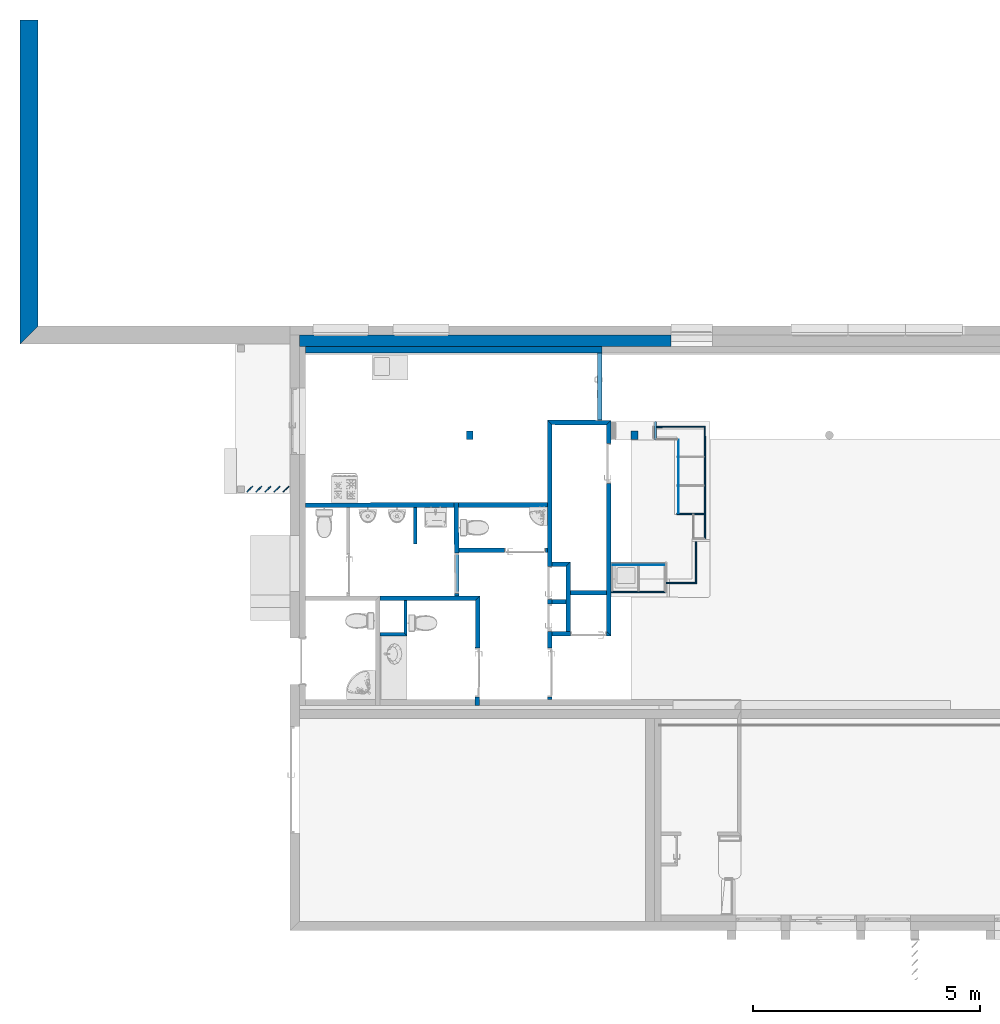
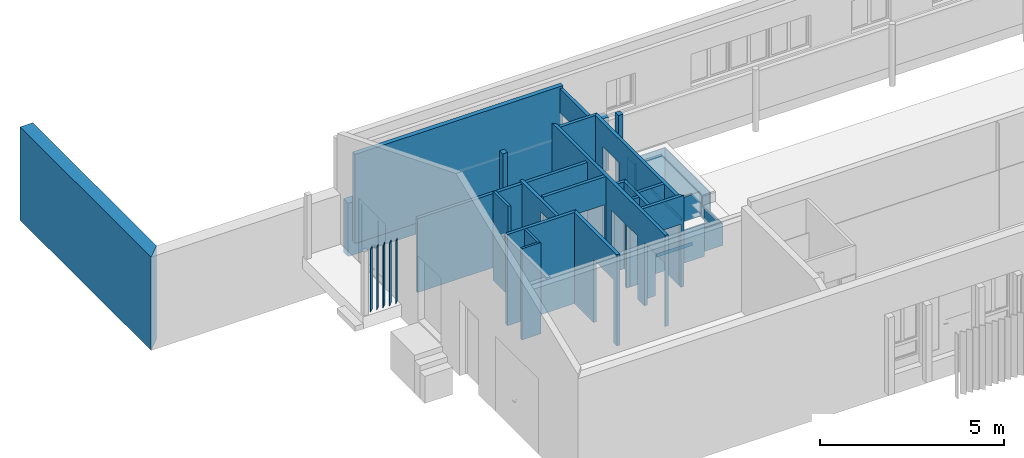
# One storey, part 6 of 34: 36 walls, 10 openings.
"""IFC2X3 building model written with IfcOpenShell, lengths in metres."""

from ifc_helpers import new_model, entity, si_unit, converted_unit, derived_unit, money_unit, direction, frame, origin_with_axes, origin_2d_with_axis, place, context, subcontext, project, spatial, polyline, rectangle, outline, extrude, material, layer, layer_set, layer_usage, type_object, element, save


model = new_model("IFC2X3")

# Units and contexts
model_context = context("Model", 3, precision=1e-05, world=origin_with_axes(), true_north=direction((0.0, 1.0)))
body_context = subcontext(model_context, "Body", "Model", "MODEL_VIEW")
ifc_project = project(units=[si_unit("LENGTHUNIT", "METRE"), si_unit("AREAUNIT", "SQUARE_METRE"), si_unit("VOLUMEUNIT", "CUBIC_METRE"), converted_unit("PLANEANGLEUNIT", "DEGREE", entity("IfcPlaneAngleMeasure", 0.0174532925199), si_unit("PLANEANGLEUNIT", "RADIAN"), dimensions=[0, 0, 0, 0, 0, 0, 0]), money_unit("CHF"), converted_unit("TIMEUNIT", "Year", entity("IfcTimeMeasure", 31556926.0), si_unit("TIMEUNIT", "SECOND"), dimensions=[0, 0, 1, 0, 0, 0, 0]), si_unit("MASSUNIT", "GRAM", prefix="KILO"), si_unit("THERMODYNAMICTEMPERATUREUNIT", "DEGREE_CELSIUS"), si_unit("LUMINOUSINTENSITYUNIT", "LUMEN"), si_unit("ENERGYUNIT", "JOULE", prefix="MEGA"), derived_unit("THERMALCONDUCTANCEUNIT", [(si_unit("POWERUNIT", "WATT"), 1), (si_unit("LENGTHUNIT", "METRE"), -1), (si_unit("THERMODYNAMICTEMPERATUREUNIT", "KELVIN"), -1)]), derived_unit("SPECIFICHEATCAPACITYUNIT", [(si_unit("ENERGYUNIT", "JOULE"), 1), (si_unit("MASSUNIT", "GRAM", prefix="KILO"), -1), (si_unit("THERMODYNAMICTEMPERATUREUNIT", "KELVIN"), -1)]), derived_unit("MASSDENSITYUNIT", [(si_unit("MASSUNIT", "GRAM", prefix="KILO"), 1), (si_unit("VOLUMEUNIT", "CUBIC_METRE"), -1)])], contexts=[model_context])

# Site, building, storey
site_placement = place(None, origin_with_axes())
site = spatial("IfcSite", under=ifc_project, at=site_placement, Name="Site", CompositionType="ELEMENT")
building_placement = place(site_placement, origin_with_axes())
building = spatial("IfcBuilding", under=site, at=building_placement, Name="Bâtiment", CompositionType="ELEMENT")
storey_placement = place(building_placement, origin_with_axes())
storey = spatial("IfcBuildingStorey", under=building, at=storey_placement, Name="RDC", CompositionType="ELEMENT", Elevation=-5.32907e-15)

# Walls
ifc_material_1 = material(Name="Diagonales 1167258944")
ifc_layer_1 = layer(ifc_material_1, 0.4, ventilated="UNKNOWN")
ifc_layer_set_1 = layer_set([ifc_layer_1], Name="Diagonales 1167258944 0.4")
ifc_layer_usage_1 = layer_usage(ifc_layer_set_1, "AXIS2", "POSITIVE", 0.0)
wall_type_1 = type_object("IfcWallType", Name="Diagonales 1167258944 400", PredefinedType="NOTDEFINED")
wall_1_placement = place(storey_placement, frame((1661.86334084, 190.70004191, -1.0), z_axis=(0.0, 0.0, 1.0), x_axis=(0.0, 1.0, 0.0)))
element("IfcWallStandardCase", 1, at=wall_1_placement, inside=storey, type_object=wall_type_1, material=ifc_layer_usage_1, Name="Mur-003", context=body_context, shape_type="SweptSolid", body=[
    extrude(outline(polyline([(0.0, 0.0), (6.74, 0.0), (6.74, 0.4), (-0.4, 0.4), (0.0, 0.0)])), origin_with_axes(), (0.0, 0.0, 1.0), 3.1),
])
ifc_material_2 = material(Name="Isolation laine de pierre 378182646")
ifc_layer_2 = layer(ifc_material_2, 0.12, ventilated="UNKNOWN")
ifc_material_3 = material(Name="Plâtre lissé 291446788")
ifc_layer_3 = layer(ifc_material_3, 0.02, ventilated="UNKNOWN")
ifc_layer_set_2 = layer_set([ifc_layer_2, ifc_layer_3], Name="DOUBLAGE ISO + BA13 14 CM")
ifc_layer_usage_2 = layer_usage(ifc_layer_set_2, "AXIS2", "NEGATIVE", 0.0)
wall_type_2 = type_object("IfcWallType", Name="DOUBLAGE ISO + BA13 14 CM 140", PredefinedType="NOTDEFINED")
wall_2_placement = place(storey_placement, frame((1667.61729001, 190.24004191, 0.47), z_axis=(0.0, 0.0, 1.0), x_axis=(1.0, 0.0, 0.0)))
element("IfcWallStandardCase", 2, at=wall_2_placement, inside=storey, type_object=wall_type_2, material=ifc_layer_usage_2, Name="Mur-002", context=body_context, shape_type="SweptSolid", body=[
    extrude(outline(polyline([(0.14, -0.14), (6.67360580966, -0.14), (6.67360580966, 0.0), (0.14, 0.0), (0.14, -0.14)])), origin_with_axes(), (0.0, 0.0, 1.0), 2.96),
])
ifc_material_4 = material(Name="Métal 368073405")
ifc_layer_4 = layer(ifc_material_4, 0.02, ventilated="UNKNOWN")
ifc_layer_set_3 = layer_set([ifc_layer_4], Name="Métal 368073405 0.02")
ifc_layer_usage_3 = layer_usage(ifc_layer_set_3, "AXIS2", "NEGATIVE", 0.0)
wall_type_3 = type_object("IfcWallType", Name="Métal 368073405 20", PredefinedType="NOTDEFINED")
wall_3_placement = place(storey_placement, frame((1667.25647656, 187.046210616, 0.500875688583), z_axis=(0.0, 0.0, 1.0), x_axis=(0.707106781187, 0.707106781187, 0.0)))
element("IfcWallStandardCase", 3, at=wall_3_placement, inside=storey, type_object=wall_type_3, material=ifc_layer_usage_3, Name="Mur-011", context=body_context, shape_type="SweptSolid", body=[
    extrude(outline(polyline([(0.0, -0.02), (0.17446052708, -0.02), (0.17446052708, 0.0), (0.0, 0.0), (0.0, -0.02)])), origin_with_axes(), (0.0, 0.0, 1.0), 2.06912431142),
])
ifc_layer_usage_4 = layer_usage(ifc_layer_set_3, "AXIS2", "NEGATIVE", 0.0)
wall_4_placement = place(storey_placement, frame((1667.05647656, 187.046210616, 0.500875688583), z_axis=(0.0, 0.0, 1.0), x_axis=(0.707106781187, 0.707106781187, 0.0)))
element("IfcWallStandardCase", 4, at=wall_4_placement, inside=storey, type_object=wall_type_3, material=ifc_layer_usage_4, Name="Mur-011", context=body_context, shape_type="SweptSolid", body=[
    extrude(outline(polyline([(0.0, -0.02), (0.17446052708, -0.02), (0.17446052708, 0.0), (0.0, 0.0), (0.0, -0.02)])), origin_with_axes(), (0.0, 0.0, 1.0), 2.06912431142),
])
ifc_layer_usage_5 = layer_usage(ifc_layer_set_3, "AXIS2", "NEGATIVE", 0.0)
wall_5_placement = place(storey_placement, frame((1666.85647656, 187.046210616, 0.500875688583), z_axis=(0.0, 0.0, 1.0), x_axis=(0.707106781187, 0.707106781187, 0.0)))
element("IfcWallStandardCase", 5, at=wall_5_placement, inside=storey, type_object=wall_type_3, material=ifc_layer_usage_5, Name="Mur-011", context=body_context, shape_type="SweptSolid", body=[
    extrude(outline(polyline([(0.0, -0.02), (0.17446052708, -0.02), (0.17446052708, 0.0), (0.0, 0.0), (0.0, -0.02)])), origin_with_axes(), (0.0, 0.0, 1.0), 2.06912431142),
])
ifc_layer_usage_6 = layer_usage(ifc_layer_set_3, "AXIS2", "NEGATIVE", 0.0)
wall_6_placement = place(storey_placement, frame((1666.65647656, 187.046210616, 0.500875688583), z_axis=(0.0, 0.0, 1.0), x_axis=(0.707106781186, 0.707106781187, 0.0)))
element("IfcWallStandardCase", 6, at=wall_6_placement, inside=storey, type_object=wall_type_3, material=ifc_layer_usage_6, Name="Mur-011", context=body_context, shape_type="SweptSolid", body=[
    extrude(outline(polyline([(0.0, -0.02), (0.17446052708, -0.02), (0.17446052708, 0.0), (0.0, 0.0), (0.0, -0.02)])), origin_with_axes(), (0.0, 0.0, 1.0), 2.06912431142),
])
ifc_layer_usage_7 = layer_usage(ifc_layer_set_3, "AXIS2", "NEGATIVE", 0.0)
wall_7_placement = place(storey_placement, frame((1666.45647656, 187.046210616, 0.500875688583), z_axis=(0.0, 0.0, 1.0), x_axis=(0.707106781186, 0.707106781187, 0.0)))
element("IfcWallStandardCase", 7, at=wall_7_placement, inside=storey, type_object=wall_type_3, material=ifc_layer_usage_7, Name="Mur-011", context=body_context, shape_type="SweptSolid", body=[
    extrude(outline(polyline([(0.0, -0.02), (0.17446052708, -0.02), (0.17446052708, 0.0), (0.0, 0.0), (0.0, -0.02)])), origin_with_axes(), (0.0, 0.0, 1.0), 2.06912431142),
])
ifc_layer_5 = layer(ifc_material_3, 0.018, ventilated="UNKNOWN")
ifc_material_5 = material(Name="Isolation laine de pierre 378641718")
ifc_layer_6 = layer(ifc_material_5, 0.045, ventilated="UNKNOWN")
ifc_layer_7 = layer(ifc_material_3, 0.018, ventilated="UNKNOWN")
ifc_layer_set_4 = layer_set([ifc_layer_5, ifc_layer_6, ifc_layer_7], Name="CLOISON 84/45 iso")
ifc_layer_usage_8 = layer_usage(ifc_layer_set_4, "AXIS2", "POSITIVE", 0.0)
wall_type_4 = type_object("IfcWallType", Name="CLOISON 84/45 iso 81", PredefinedType="NOTDEFINED")
wall_8_placement = place(storey_placement, frame((1670.12981347, 186.701898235, 0.47), z_axis=(0.0, 0.0, 1.0), x_axis=(0.00319938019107, -0.99999488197, 0.0)))
element("IfcWallStandardCase", 8, at=wall_8_placement, inside=storey, type_object=wall_type_4, material=ifc_layer_usage_8, Name="Mur-010", context=body_context, shape_type="SweptSolid", body=[
    extrude(outline(polyline([(0.0, 0.0), (0.813515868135, 0.0), (0.813515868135, 0.0810000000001), (0.0, 0.081), (0.0, 0.0)])), origin_with_axes(), (0.0, 0.0, 1.0), 2.96),
])
ifc_layer_8 = layer(ifc_material_1, 0.15, ventilated="UNKNOWN")
ifc_layer_set_5 = layer_set([ifc_layer_8], Name="Diagonales 1167258944 0.15")
ifc_layer_usage_9 = layer_usage(ifc_layer_set_5, "AXIS2", "NEGATIVE", 0.0)
wall_type_5 = type_object("IfcWallType", Name="Diagonales 1167258944 150", PredefinedType="NOTDEFINED")
wall_9_placement = place(storey_placement, frame((1671.29729001, 188.20004191, 1.09), z_axis=(0.0, 0.0, 1.0), x_axis=(0.0, 1.0, 0.0)))
element("IfcWallStandardCase", 9, at=wall_9_placement, inside=storey, type_object=wall_type_5, material=ifc_layer_usage_9, Name="Mur-005", context=body_context, shape_type="SweptSolid", body=[
    extrude(outline(polyline([(0.0, -0.15), (0.18, -0.15), (0.18, 0.0), (0.0, 0.0), (0.0, -0.15)])), origin_with_axes(), (0.0, 0.0, 1.0), 2.27),
])
ifc_layer_usage_10 = layer_usage(ifc_layer_set_5, "AXIS2", "POSITIVE", 0.0)
wall_10_placement = place(storey_placement, frame((1675.08077956, 188.20004191, 1.09), z_axis=(0.0, 0.0, 1.0), x_axis=(0.0, 1.0, 0.0)))
element("IfcWallStandardCase", 10, at=wall_10_placement, inside=storey, type_object=wall_type_5, material=ifc_layer_usage_10, Name="Mur-005", context=body_context, shape_type="SweptSolid", body=[
    extrude(outline(polyline([(0.0, 0.0), (0.18, 0.0), (0.18, 0.15), (0.0, 0.15), (0.0, 0.0)])), origin_with_axes(), (0.0, 0.0, 1.0), 2.27),
])

# Wall, opening
ifc_layer_9 = layer(ifc_material_3, 0.015, ventilated="UNKNOWN")
ifc_material_6 = material(Name="Isolation laine de pierre 307970822")
ifc_layer_10 = layer(ifc_material_6, 0.07, ventilated="UNKNOWN")
ifc_layer_11 = layer(ifc_material_3, 0.015, ventilated="UNKNOWN")
ifc_layer_set_6 = layer_set([ifc_layer_9, ifc_layer_10, ifc_layer_11], Name="CLOISON 10 ROUGE")
ifc_layer_usage_11 = layer_usage(ifc_layer_set_6, "AXIS2", "NEGATIVE", 0.0)
wall_type_6 = type_object("IfcWallType", Name="CLOISON 10 ROUGE 100", PredefinedType="NOTDEFINED")
wall_11_placement = place(storey_placement, frame((1674.4908958, 183.86604191, 0.47), z_axis=(0.0, 0.0, 1.0), x_axis=(-1.0, 0.0, 0.0)))
wall_11 = element("IfcWallStandardCase", 11, at=wall_11_placement, inside=storey, type_object=wall_type_6, material=ifc_layer_usage_11, Name="Mur-010", context=body_context, shape_type="SweptSolid", body=[
    extrude(outline(polyline([(0.1, -0.1), (1.29999997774, -0.1), (1.29999997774, 0.0), (0.0, 0.0), (0.1, -0.1)])), origin_with_axes(), (0.0, 0.0, 1.0), 3.03000008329),
])
opening_1_placement = place(wall_11_placement, frame((0.499999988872, 0.0, 0.0), z_axis=(0.0, 0.0, 1.0), x_axis=(1.0, 0.0, 0.0)))
element("IfcOpeningElement", 12, at=opening_1_placement, cuts=wall_11, Name="Por-004", context=body_context, shape_type="SweptSolid", body=[
    extrude(rectangle(XDim=0.799999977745, YDim=2.1, at=origin_2d_with_axis()), frame((0.0, 0.1, 1.05), z_axis=(0.0, -1.0, 0.0), x_axis=(1.0, 0.0, 0.0)), (0.0, 0.0, 1.0), 0.3),
])

# Wall
ifc_layer_usage_12 = layer_usage(ifc_layer_set_6, "AXIS2", "POSITIVE", 0.0)
wall_12_placement = place(storey_placement, frame((1673.19089582, 186.803090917, 0.9), z_axis=(0.0, 0.0, 1.0), x_axis=(-0.999999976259, -0.00021790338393, 0.0)))
element("IfcWallStandardCase", 13, at=wall_12_placement, inside=storey, type_object=wall_type_6, material=ifc_layer_usage_12, Name="Mur-010", context=body_context, shape_type="SweptSolid", body=[
    extrude(outline(polyline([(0.100000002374, 0.0), (5.43360593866, 0.0), (5.433627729, 0.1), (0.100021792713, 0.1), (0.100000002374, 0.0)])), origin_with_axes(), (0.0, 0.0, 1.0), 2.46),
])

# Wall, opening
ifc_layer_usage_13 = layer_usage(ifc_layer_set_6, "AXIS2", "POSITIVE", 0.0)
wall_13_placement = place(storey_placement, frame((1671.0330132, 185.701953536, 0.47), z_axis=(0.0, 0.0, 1.0), x_axis=(1.0, 0.0, 0.0)))
wall_13 = element("IfcWallStandardCase", 14, at=wall_13_placement, inside=storey, type_object=wall_type_6, material=ifc_layer_usage_13, Name="Mur-010", context=body_context, shape_type="SweptSolid", body=[
    extrude(outline(polyline([(0.100000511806, 0.0), (2.05788262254, 0.0), (2.05788262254, 0.1), (0.099680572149, 0.1), (0.100000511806, 0.0)])), origin_with_axes(), (0.0, 0.0, 1.0), 3.03000008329),
])
opening_2_placement = place(wall_13_placement, frame((1.55904852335, 0.0, 0.0), z_axis=(0.0, 0.0, 1.0), x_axis=(1.0, 0.0, 0.0)))
element("IfcOpeningElement", 15, at=opening_2_placement, cuts=wall_13, Name="Por-004", context=body_context, shape_type="SweptSolid", body=[
    extrude(rectangle(XDim=0.91, YDim=2.1, at=origin_2d_with_axis()), frame((0.0, 0.1, 1.05), z_axis=(0.0, 1.0, 0.0), x_axis=(1.0, 0.0, 0.0)), (0.0, 0.0, -1.0), 0.3),
])

ifc_layer_usage_14 = layer_usage(ifc_layer_set_6, "AXIS2", "POSITIVE", 0.0)
wall_14_placement = place(storey_placement, frame((1674.4908958, 183.86604191, 0.47), z_axis=(0.0, 0.0, 1.0), x_axis=(0.0, 1.0, 0.0)))
wall_14 = element("IfcWallStandardCase", 16, at=wall_14_placement, inside=storey, type_object=wall_type_6, material=ifc_layer_usage_14, Name="Mur-010", context=body_context, shape_type="SweptSolid", body=[
    extrude(outline(polyline([(0.0, 0.0), (4.75381220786, 0.0), (4.65390605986, 0.1), (0.1, 0.1), (0.0, 0.0)])), origin_with_axes(), (0.0, 0.0, 1.0), 2.89),
])
opening_3_placement = place(wall_14_placement, frame((3.80406419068, 0.0, 0.0), z_axis=(0.0, 0.0, 1.0), x_axis=(1.0, 0.0, 0.0)))
element("IfcOpeningElement", 17, at=opening_3_placement, cuts=wall_14, Name="Por-004", context=body_context, shape_type="SweptSolid", body=[
    extrude(rectangle(XDim=0.886, YDim=2.1, at=origin_2d_with_axis()), frame((0.0, -0.1, 1.05), z_axis=(0.0, 1.0, 0.0), x_axis=(1.0, 0.0, 0.0)), (0.0, 0.0, 1.0), 0.3),
])

# Wall
ifc_layer_usage_15 = layer_usage(ifc_layer_set_6, "AXIS2", "NEGATIVE", 0.0)
wall_15_placement = place(storey_placement, frame((1673.19089582, 188.621074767, 0.47), z_axis=(0.0, 0.0, 1.0), x_axis=(0.999999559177, -0.000938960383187, 0.0)))
element("IfcWallStandardCase", 18, at=wall_15_placement, inside=storey, type_object=wall_type_6, material=ifc_layer_usage_15, Name="Mur-011", context=body_context, shape_type="SweptSolid", body=[
    extrude(outline(polyline([(9.38960797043e-05, -0.1), (1.20009440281, -0.1), (1.30000055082, 0.0), (-0.100000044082, 0.0), (9.38960797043e-05, -0.1)])), origin_with_axes(), (0.0, 0.0, 1.0), 2.89),
])

# Wall, openings
ifc_layer_usage_16 = layer_usage(ifc_layer_set_6, "AXIS2", "POSITIVE", 0.0)
wall_16_placement = place(storey_placement, frame((1673.19089582, 182.47004191, 0.47), z_axis=(0.0, 0.0, 1.0), x_axis=(0.0, 1.0, 0.0)))
wall_16 = element("IfcWallStandardCase", 19, at=wall_16_placement, inside=storey, type_object=wall_type_6, material=ifc_layer_usage_16, Name="Mur-010", context=body_context, shape_type="SweptSolid", body=[
    extrude(outline(polyline([(0.0, 0.0), (6.05103281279, 0.0), (6.15112675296, 0.1), (0.0, 0.1), (0.0, 0.0)])), origin_with_axes(), (0.0, 0.0, 1.0), 3.03000008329),
])
opening_4_placement = place(wall_16_placement, frame((0.592679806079, 0.0, 0.0), z_axis=(0.0, 0.0, 1.0), x_axis=(1.0, 0.0, 0.0)))
element("IfcOpeningElement", 20, at=opening_4_placement, cuts=wall_16, Name="Por-004", context=body_context, shape_type="SweptSolid", body=[
    extrude(rectangle(XDim=1.086, YDim=2.1, at=origin_2d_with_axis()), frame((0.0, 0.1, 1.05), z_axis=(0.0, -1.0, 0.0), x_axis=(-1.0, 0.0, 0.0)), (0.0, 0.0, 1.0), 0.3),
])
opening_5_placement = place(wall_16_placement, frame((1.796, 0.0, 0.0), z_axis=(0.0, 0.0, 1.0), x_axis=(1.0, 0.0, 0.0)))
element("IfcOpeningElement", 21, at=opening_5_placement, cuts=wall_16, Name="Por-006", context=body_context, shape_type="SweptSolid", body=[
    extrude(rectangle(XDim=0.6, YDim=2.1, at=origin_2d_with_axis()), frame((0.0, 0.1, 1.05), z_axis=(0.0, -1.0, 0.0), x_axis=(1.0, 0.0, 0.0)), (0.0, 0.0, 1.0), 0.3),
])
opening_6_placement = place(wall_16_placement, frame((2.56298368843, 0.0, 0.0), z_axis=(0.0, 0.0, 1.0), x_axis=(1.0, 0.0, 0.0)))
element("IfcOpeningElement", 22, at=opening_6_placement, cuts=wall_16, Name="Por-006", context=body_context, shape_type="SweptSolid", body=[
    extrude(rectangle(XDim=0.733967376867, YDim=2.1, at=origin_2d_with_axis()), frame((0.0, 0.1, 1.05), z_axis=(0.0, -1.0, 0.0), x_axis=(1.0, 0.0, 0.0)), (0.0, 0.0, 1.0), 0.3),
])

# Wall
ifc_layer_usage_17 = layer_usage(ifc_layer_set_6, "AXIS2", "POSITIVE", 0.0)
wall_17_placement = place(storey_placement, frame((1673.59089582, 185.500009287, 0.47), z_axis=(0.0, 0.0, 1.0), x_axis=(-1.0, 0.0, 0.0)))
element("IfcWallStandardCase", 23, at=wall_17_placement, inside=storey, type_object=wall_type_6, material=ifc_layer_usage_17, Name="Mur-010", context=body_context, shape_type="SweptSolid", body=[
    extrude(outline(polyline([(0.0, 0.0), (0.4, 0.0), (0.4, 0.1), (0.1, 0.1), (0.0, 0.0)])), origin_with_axes(), (0.0, 0.0, 1.0), 2.89),
])

# Wall, opening
ifc_layer_usage_18 = layer_usage(ifc_layer_set_6, "AXIS2", "POSITIVE", 0.0)
wall_18_placement = place(storey_placement, frame((1671.02948095, 186.805988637, 0.47), z_axis=(0.0, 0.0, 1.0), x_axis=(0.00319938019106, -0.99999488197, 0.0)))
wall_18 = element("IfcWallStandardCase", 24, at=wall_18_placement, inside=storey, type_object=wall_type_6, material=ifc_layer_usage_18, Name="Mur-010", context=body_context, shape_type="SweptSolid", body=[
    extrude(outline(polyline([(0.0, 0.0), (2.0565632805, 0.0), (2.05688322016, 0.1), (0.0, 0.1), (0.0, 0.0)])), origin_with_axes(), (0.0, 0.0, 1.0), 2.96),
])
opening_7_placement = place(wall_18_placement, frame((1.55621209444, 0.0, 0.47), z_axis=(0.0, 0.0, 1.0), x_axis=(1.0, 0.0, 0.0)))
element("IfcOpeningElement", 25, at=opening_7_placement, cuts=wall_18, Name="Por-004", context=body_context, shape_type="SweptSolid", body=[
    extrude(rectangle(XDim=0.886, YDim=2.118, at=origin_2d_with_axis()), frame((0.0, 0.0999999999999, 1.059), z_axis=(0.0, 1.0, 0.0), x_axis=(1.0, 0.0, 0.0)), (0.0, 0.0, -1.0), 0.3),
])

ifc_layer_usage_19 = layer_usage(ifc_layer_set_6, "AXIS2", "POSITIVE", 0.0)
wall_19_placement = place(storey_placement, frame((1674.29089582, 188.620511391, 0.47), z_axis=(0.0, 0.0, 1.0), x_axis=(0.0, 1.0, 0.0)))
wall_19 = element("IfcWallStandardCase", 26, at=wall_19_placement, inside=storey, type_object=wall_type_6, material=ifc_layer_usage_19, Name="Mur-010", context=body_context, shape_type="SweptSolid", body=[
    extrude(outline(polyline([(0.0, 0.0), (1.4795305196, 0.0), (1.4795305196, 0.1), (0.0, 0.1), (0.0, 0.0)])), origin_with_axes(), (0.0, 0.0, 1.0), 2.89),
])
opening_8_placement = place(wall_19_placement, frame((0.739530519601, 0.0, 0.0), z_axis=(0.0, 0.0, 1.0), x_axis=(1.0, 0.0, 0.0)))
element("IfcOpeningElement", 27, at=opening_8_placement, cuts=wall_19, Name="Por-006", context=body_context, shape_type="SweptSolid", body=[
    extrude(rectangle(XDim=1.48, YDim=2.1, at=origin_2d_with_axis()), frame((0.0, 0.1, 1.05), z_axis=(0.0, -1.0, 0.0), x_axis=(1.0, 0.0, 0.0)), (0.0, 0.0, 1.0), 0.3),
])

# Wall
ifc_layer_usage_20 = layer_usage(ifc_layer_set_6, "AXIS2", "POSITIVE", 0.0)
wall_20_placement = place(storey_placement, frame((1674.4908958, 184.86604191, 0.47), z_axis=(0.0, 0.0, 1.0), x_axis=(-1.0, 0.0, 0.0)))
element("IfcWallStandardCase", 28, at=wall_20_placement, inside=storey, type_object=wall_type_6, material=ifc_layer_usage_20, Name="Mur-010", context=body_context, shape_type="SweptSolid", body=[
    extrude(outline(polyline([(0.1, 0.0), (0.899999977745, 0.0), (0.899999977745, 0.1), (0.1, 0.1), (0.1, 0.0)])), origin_with_axes(), (0.0, 0.0, 1.0), 2.89),
])

# Wall, opening
ifc_layer_usage_21 = layer_usage(ifc_layer_set_6, "AXIS2", "NEGATIVE", 0.0)
wall_21_placement = place(storey_placement, frame((1671.49103022, 182.33004191, 0.47), z_axis=(0.0, 0.0, 1.0), x_axis=(0.00319938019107, 0.99999488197, 0.0)))
wall_21 = element("IfcWallStandardCase", 29, at=wall_21_placement, inside=storey, type_object=wall_type_6, material=ifc_layer_usage_21, Name="Mur-010", context=body_context, shape_type="SweptSolid", body=[
    extrude(outline(polyline([(0.0, -0.1), (2.41972629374, -0.1), (2.31940584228, 0.0), (0.0, 0.0), (0.0, -0.1)])), origin_with_axes(), (0.0, 0.0, 1.0), 3.03000008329),
])
opening_9_placement = place(wall_21_placement, frame((0.733000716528, 0.0, 0.0), z_axis=(0.0, 0.0, 1.0), x_axis=(1.0, 0.0, 0.0)))
element("IfcOpeningElement", 30, at=opening_9_placement, cuts=wall_21, Name="Por-004", context=body_context, shape_type="SweptSolid", body=[
    extrude(rectangle(XDim=1.086, YDim=2.1, at=origin_2d_with_axis()), frame((0.0, -0.1, 1.05), z_axis=(0.0, 1.0, 0.0), x_axis=(-1.0, 0.0, 0.0)), (0.0, 0.0, 1.0), 0.3),
])

# Walls
ifc_layer_usage_22 = layer_usage(ifc_layer_set_6, "AXIS2", "POSITIVE", 0.0)
wall_22_placement = place(storey_placement, frame((1669.2948228, 184.649435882, 0.47), z_axis=(0.0, 0.0, 1.0), x_axis=(1.0, 0.0, 0.0)))
element("IfcWallStandardCase", 31, at=wall_22_placement, inside=storey, type_object=wall_type_6, material=ifc_layer_usage_22, Name="Mur-010", context=body_context, shape_type="SweptSolid", body=[
    extrude(outline(polyline([(0.1, 0.0), (2.20362808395, 0.0), (2.30394853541, 0.1), (0.1, 0.1), (0.1, 0.0)])), origin_with_axes(), (0.0, 0.0, 1.0), 3.03000008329),
])
ifc_layer_usage_23 = layer_usage(ifc_layer_set_6, "AXIS2", "NEGATIVE", 0.0)
wall_23_placement = place(storey_placement, frame((1673.59089582, 184.56604191, 0.47), z_axis=(0.0, 0.0, 1.0), x_axis=(-1.0, 0.0, 0.0)))
element("IfcWallStandardCase", 32, at=wall_23_placement, inside=storey, type_object=wall_type_6, material=ifc_layer_usage_23, Name="Mur-010", context=body_context, shape_type="SweptSolid", body=[
    extrude(outline(polyline([(0.1, -0.1), (0.4, -0.1), (0.4, 0.0), (0.1, 0.0), (0.1, -0.1)])), origin_with_axes(), (0.0, 0.0, 1.0), 2.89),
])
ifc_layer_usage_24 = layer_usage(ifc_layer_set_6, "AXIS2", "POSITIVE", 0.0)
wall_24_placement = place(storey_placement, frame((1673.59089582, 183.86604191, 0.47), z_axis=(0.0, 0.0, 1.0), x_axis=(0.0, 1.0, 0.0)))
element("IfcWallStandardCase", 33, at=wall_24_placement, inside=storey, type_object=wall_type_6, material=ifc_layer_usage_24, Name="Mur-010", context=body_context, shape_type="SweptSolid", body=[
    extrude(outline(polyline([(0.1, 0.0), (1.63396737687, 0.0), (1.53396737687, 0.1), (0.1, 0.1), (0.1, 0.0)])), origin_with_axes(), (0.0, 0.0, 1.0), 2.89),
])
ifc_material_7 = material(Name="Plâtre cloisons 1818619258")
ifc_layer_12 = layer(ifc_material_7, 0.03, ventilated="UNKNOWN")
ifc_layer_set_7 = layer_set([ifc_layer_12], Name="Plâtre cloisons 1818619258 0.03")
ifc_layer_usage_25 = layer_usage(ifc_layer_set_7, "AXIS2", "NEGATIVE", 0.0)
wall_type_7 = type_object("IfcWallType", Name="Plâtre cloisons 1818619258 30", PredefinedType="NOTDEFINED")
wall_25_placement = place(storey_placement, frame((1676.37448455, 185.017906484, 0.47), z_axis=(0.0, 0.0, 1.0), x_axis=(-0.999998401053, -0.00178826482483, 0.0)))
element("IfcWallStandardCase", 34, at=wall_25_placement, inside=storey, type_object=wall_type_7, material=ifc_layer_usage_25, Name="Mur-012", context=body_context, shape_type="SweptSolid", body=[
    extrude(outline(polyline([(0.0299973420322, -0.03), (0.68460311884, -0.03), (0.68460311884, 0.0), (0.0, 0.0), (0.0299973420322, -0.03)])), origin_with_axes(), (0.0, 0.0, 1.0), 0.75),
])
ifc_layer_usage_26 = layer_usage(ifc_layer_set_7, "AXIS2", "POSITIVE", -0.03)
wall_26_placement = place(storey_placement, frame((1675.94082332, 186.570276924, 0.45), z_axis=(0.0, 0.0, 1.0), x_axis=(0.999999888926, -0.000471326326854, 0.0)))
element("IfcWallStandardCase", 35, at=wall_26_placement, inside=storey, type_object=wall_type_7, material=ifc_layer_usage_26, Name="Mur-015", context=body_context, shape_type="SweptSolid", body=[
    extrude(outline(polyline([(0.0, -0.03), (0.605060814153, -0.03), (0.605060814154, 0.0), (0.0, 0.0), (0.0, -0.03)])), origin_with_axes(), (0.0, 0.0, 1.0), 0.82),
])
ifc_layer_usage_27 = layer_usage(ifc_layer_set_7, "AXIS2", "NEGATIVE", 0.0)
wall_27_placement = place(storey_placement, frame((1675.44100037, 188.490388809, 0.47), z_axis=(0.0, 0.0, 1.0), x_axis=(0.999999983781, 0.00018010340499, 0.0)))
element("IfcWallStandardCase", 36, at=wall_27_placement, inside=storey, type_object=wall_type_7, material=ifc_layer_usage_27, Name="Mur-010", context=body_context, shape_type="SweptSolid", body=[
    extrude(outline(polyline([(0.0500015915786, -0.03), (1.09760863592, -0.03), (1.12756042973, 0.0), (0.0499999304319, 0.0), (0.0500015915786, -0.03)])), origin_with_axes(), (0.0, 0.0, 1.0), 1.1),
])

# Wall, opening
ifc_layer_13 = layer(ifc_material_1, 0.26, ventilated="UNKNOWN")
ifc_layer_set_8 = layer_set([ifc_layer_13], Name="Diagonales 1167258944 0.26")
ifc_layer_usage_28 = layer_usage(ifc_layer_set_8, "AXIS2", "NEGATIVE", 0.0)
wall_type_8 = type_object("IfcWallType", Name="Diagonales 1167258944 260", PredefinedType="NOTDEFINED")
wall_28_placement = place(storey_placement, frame((1667.41729001, 190.50004191, 0.0), z_axis=(0.0, 0.0, 1.0), x_axis=(1.0, 0.0, 0.0)))
wall_28 = element("IfcWallStandardCase", 37, at=wall_28_placement, inside=storey, type_object=wall_type_8, material=ifc_layer_usage_28, Name="Mur-002", context=body_context, shape_type="SweptSolid", body=[
    extrude(outline(polyline([(0.2, -0.26), (8.39269470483, -0.26), (8.39269470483, 0.0), (0.2, 0.0), (0.2, -0.26)])), origin_with_axes(), (0.0, 0.0, 1.0), 1.77),
])
opening_10_placement = place(wall_28_placement, frame((9.00769470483, 0.0, 1.77), z_axis=(0.0, 0.0, 1.0), x_axis=(1.0, 0.0, 0.0)))
element("IfcOpeningElement", 38, at=opening_10_placement, cuts=wall_28, Name="Fen-005", context=body_context, shape_type="SweptSolid", body=[
    extrude(rectangle(XDim=1.23, YDim=1.08, at=origin_2d_with_axis()), frame((0.0, -0.11, 0.54), z_axis=(0.0, 1.0, 0.0), x_axis=(1.0, 0.0, 0.0)), (0.0, 0.0, -1.0), 0.41),
    extrude(rectangle(XDim=1.23, YDim=1.08, at=origin_2d_with_axis()), frame((0.0, -0.11, 0.54), z_axis=(0.0, -1.0, 0.0), x_axis=(1.0, 0.0, 0.0)), (0.0, 0.0, -1.0), 0.41),
])

# Walls
ifc_layer_14 = layer(ifc_material_3, 0.027, ventilated="UNKNOWN")
ifc_layer_15 = layer(ifc_material_6, 0.032, ventilated="UNKNOWN")
ifc_layer_16 = layer(ifc_material_3, 0.0113, ventilated="UNKNOWN")
ifc_layer_set_9 = layer_set([ifc_layer_14, ifc_layer_15, ifc_layer_16], Name="Cloison: Gaine TECH 72/45")
ifc_layer_usage_29 = layer_usage(ifc_layer_set_9, "AXIS2", "NEGATIVE", 0.0)
wall_type_9 = type_object("IfcWallType", Name="Cloison: Gaine TECH 72/45  70", PredefinedType="NOTDEFINED")
wall_29_placement = place(storey_placement, frame((1669.9948228, 183.87004191, 0.47), z_axis=(0.0, 0.0, 1.0), x_axis=(-1.0, 0.0, 0.0)))
element("IfcWallStandardCase", 39, at=wall_29_placement, inside=storey, type_object=wall_type_9, material=ifc_layer_usage_29, Name="Mur-010", context=body_context, shape_type="SweptSolid", body=[
    extrude(outline(polyline([(0.0703, -0.0703), (0.6, -0.0703), (0.6, 0.0), (0.0, 0.0), (0.0703, -0.0703)])), origin_with_axes(), (0.0, 0.0, 1.0), 3.03),
])
ifc_layer_usage_30 = layer_usage(ifc_layer_set_9, "AXIS2", "POSITIVE", 0.0)
wall_30_placement = place(storey_placement, frame((1669.9948228, 183.87004191, 0.47), z_axis=(0.0, 0.0, 1.0), x_axis=(0.0, 1.0, 0.0)))
element("IfcWallStandardCase", 40, at=wall_30_placement, inside=storey, type_object=wall_type_9, material=ifc_layer_usage_30, Name="Mur-010", context=body_context, shape_type="SweptSolid", body=[
    extrude(outline(polyline([(0.0, 0.0), (0.779393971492, 0.0), (0.779393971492, 0.0703), (0.0703, 0.0703), (0.0, 0.0)])), origin_with_axes(), (0.0, 0.0, 1.0), 3.03),
])
ifc_layer_17 = layer(ifc_material_7, 0.05, ventilated="UNKNOWN")
ifc_layer_set_10 = layer_set([ifc_layer_17], Name="Plâtre cloisons 1818619258 0.05")
ifc_layer_usage_31 = layer_usage(ifc_layer_set_10, "AXIS2", "NEGATIVE", 0.0)
wall_type_10 = type_object("IfcWallType", Name="Plâtre cloisons 1818619258 50", PredefinedType="NOTDEFINED")
wall_31_placement = place(storey_placement, frame((1675.44107101, 188.190110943, 0.47), z_axis=(0.0, 0.0, 1.0), x_axis=(-0.000235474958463, 0.999999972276, 0.0)))
element("IfcWallStandardCase", 41, at=wall_31_placement, inside=storey, type_object=wall_type_10, material=ifc_layer_usage_31, Name="Mur-010", context=body_context, shape_type="SweptSolid", body=[
    extrude(outline(polyline([(0.0, -0.05), (0.40000000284, -0.05), (0.40000000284, 0.0), (0.0, 0.0), (0.0, -0.05)])), origin_with_axes(), (0.0, 0.0, 1.0), 1.1),
])
ifc_material_8 = material(Name="50 % 1167783752")
ifc_layer_18 = layer(ifc_material_8, 0.03, ventilated="UNKNOWN")
ifc_layer_set_11 = layer_set([ifc_layer_18], Name="50 % 1167783752 0.03")
ifc_layer_usage_32 = layer_usage(ifc_layer_set_11, "AXIS2", "POSITIVE", 0.0)
wall_type_11 = type_object("IfcWallType", Name="50 % 1167783752 30", PredefinedType="NOTDEFINED")
wall_32_placement = place(storey_placement, frame((1676.53856075, 188.490586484, 0.47), z_axis=(0.0, 0.0, 1.0), x_axis=(0.00178826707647, -0.999998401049, 0.0)))
element("IfcWallStandardCase", 42, at=wall_32_placement, inside=storey, type_object=wall_type_11, material=ifc_layer_usage_32, Name="Mur-011", context=body_context, shape_type="SweptSolid", body=[
    extrude(outline(polyline([(0.0300000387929, 0.0), (2.46313627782, 0.0), (2.49320414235, 0.03), (4.82449803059e-05, 0.03), (0.0300000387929, 0.0)])), origin_with_axes(), (0.0, 0.0, 1.0), 1.1),
])
ifc_layer_usage_33 = layer_usage(ifc_layer_set_11, "AXIS2", "NEGATIVE", 0.0)
wall_33_placement = place(storey_placement, frame((1676.37281941, 185.997595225, 0.47), z_axis=(0.0, 0.0, 1.0), x_axis=(0.00169966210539, -0.999998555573, 0.0)))
element("IfcWallStandardCase", 43, at=wall_33_placement, inside=storey, type_object=wall_type_11, material=ifc_layer_usage_33, Name="Mur-012", context=body_context, shape_type="SweptSolid", body=[
    extrude(outline(polyline([(0.0, -0.03), (0.949692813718, -0.03), (0.97969015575, 0.0), (0.0, 0.0), (0.0, -0.03)])), origin_with_axes(), (0.0, 0.0, 1.0), 0.75),
])
ifc_layer_usage_34 = layer_usage(ifc_layer_set_11, "AXIS2", "NEGATIVE", 0.0)
wall_34_placement = place(storey_placement, frame((1675.69047169, 184.820557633, 0.47), z_axis=(0.0, 0.0, 1.0), x_axis=(-0.999999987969, -0.000155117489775, 0.0)))
element("IfcWallStandardCase", 44, at=wall_34_placement, inside=storey, type_object=wall_type_11, material=ifc_layer_usage_34, Name="Mur-016", context=body_context, shape_type="SweptSolid", body=[
    extrude(outline(polyline([(0.029981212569, -0.03), (1.19982520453, -0.03), (1.19982520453, 0.0), (0.0, 0.0), (0.029981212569, -0.03)])), origin_with_axes(), (0.0, 0.0, 1.0), 1.1),
])
ifc_layer_19 = layer(ifc_material_8, 0.01, ventilated="UNKNOWN")
ifc_layer_set_12 = layer_set([ifc_layer_19], Name="50 % 1167783752 0.01")
ifc_layer_usage_35 = layer_usage(ifc_layer_set_12, "AXIS2", "POSITIVE", -0.01)
wall_type_12 = type_object("IfcWallType", Name="50 % 1167783752 10", PredefinedType="NOTDEFINED")
wall_35_placement = place(storey_placement, frame((1675.97082332, 186.570289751, 0.47), z_axis=(0.0, 0.0, 1.0), x_axis=(0.000471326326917, 0.999999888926, 0.0)))
element("IfcWallStandardCase", 45, at=wall_35_placement, inside=storey, type_object=wall_type_12, material=ifc_layer_usage_35, Name="Mur-015", context=body_context, shape_type="SweptSolid", body=[
    extrude(outline(polyline([(0.0, -0.01), (1.62009373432, -0.01), (1.62009373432, 0.0), (0.0, 0.0), (0.0, -0.01)])), origin_with_axes(), (0.0, 0.0, 1.0), 0.119992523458),
])
ifc_layer_usage_36 = layer_usage(ifc_layer_set_12, "AXIS2", "POSITIVE", -0.01)
wall_36_placement = place(storey_placement, frame((1674.52104483, 185.440009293, 0.47), z_axis=(0.0, 0.0, 1.0), x_axis=(1.0, 0.0, 0.0)))
element("IfcWallStandardCase", 46, at=wall_36_placement, inside=storey, type_object=wall_type_12, material=ifc_layer_usage_36, Name="Mur-015", context=body_context, shape_type="SweptSolid", body=[
    extrude(outline(polyline([(0.0, -0.01), (1.13973298, -0.01), (1.13973298, 0.0), (0.0, 0.0), (0.0, -0.01)])), origin_with_axes(), (0.0, 0.0, 1.0), 0.119992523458),
])

save(model, "model.ifc")
